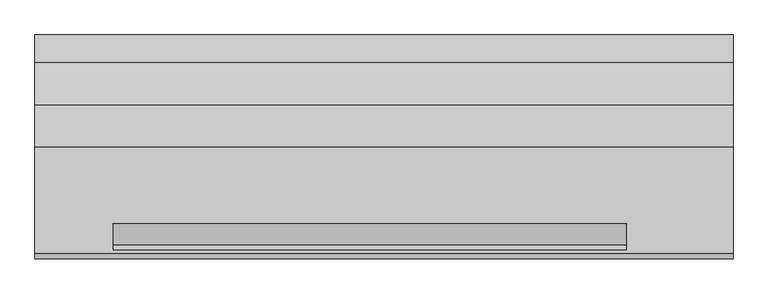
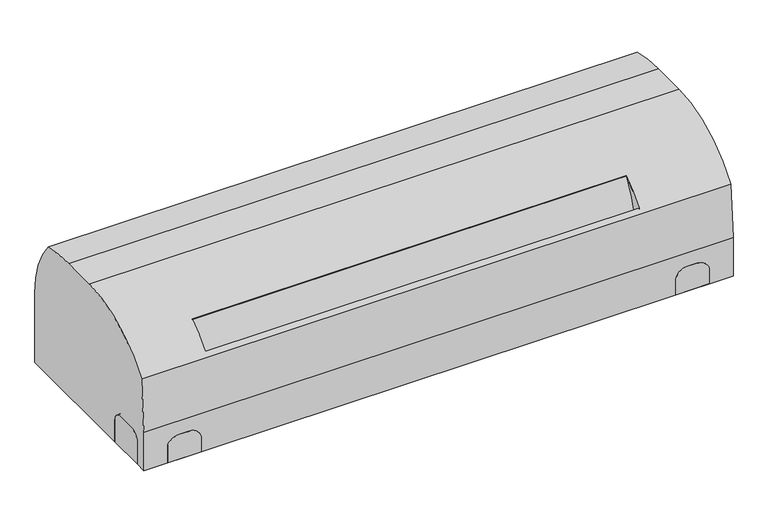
"""IFC4 building model written with IfcOpenShell, lengths in millimetres: proxy geometry, Fujitsu General_ASYG18LFCA : ASYG18LFCA."""

from ifc_helpers import new_model, si_unit, point, frame, frame_2d, origin, origin_with_axes, place, context, project, spatial, polyline, circle_curve, trimmed, segment, composite_curve, outline, extrude, source, transform, mapped, element, save
from ifc_brep_helpers import plane_surface, cylinder_surface, revolved_surface, advanced_brep


def mechanical_equipment_e18acb15(model_context):
    return source(origin(), model_context, "Body", "SolidModel", [
        extrude(outline(composite_curve([segment(trimmed(circle_curve(frame_2d((-125.0, 40.0)), 15.0), [point((-140.0, 40.0))], [point((-125.0, 55.0))], False, "CARTESIAN"), True, "CONTINUOUS"), segment(polyline([(-125.0, 55.0), (-90.0, 55.0)]), True, "CONTINUOUS"), segment(trimmed(circle_curve(frame_2d((-90.0, 40.0)), 15.0), [point((-90.0, 55.0))], [point((-75.0, 40.0))], False, "CARTESIAN"), True, "CONTINUOUS"), segment(polyline([(-75.0, 40.0), (-75.0, 0.0), (-140.0, 0.0), (-140.0, 40.0)]), True, "CONTINUOUS")], self_intersect=False)), frame((-499.0, 0.0, 0.0), z_axis=(1.0, 0.0, 0.0), x_axis=(0.0, 1.0, 0.0)), (0.0, 0.0, 1.0), 5.0),
        extrude(outline(composite_curve([segment(polyline([(25.292455, 401.7150075), (0.0, 401.7150075), (0.0, 459.0), (27.0761386, 459.0)]), True, "CONTINUOUS"), segment(trimmed(circle_curve(frame_2d((21.1163822, 436.6581618)), 23.1230714), [point((27.0761386, 459.0))], [point((44.2394536, 436.6581618))], False, "CARTESIAN"), True, "CONTINUOUS"), segment(polyline([(44.2394536, 436.6581618), (44.2394536, 420.6620061)]), True, "CONTINUOUS"), segment(trimmed(circle_curve(frame_2d((25.292455, 420.6620061)), 18.9469986), [point((44.2394536, 420.6620061))], [point((25.292455, 401.7150075))], False, "CARTESIAN"), True, "CONTINUOUS")], self_intersect=False)), frame((0.0, -160.0, 0.0), z_axis=(0.0, 1.0, 0.0), x_axis=(0.0, 0.0, 1.0)), (0.0, 0.0, 1.0), 5.0),
        extrude(outline(composite_curve([segment(trimmed(circle_curve(frame_2d((23.6913954, -422.2630656)), 20.5480581), [point((23.6913954, -401.7150075))], [point((44.2394536, -422.2630656))], False, "CARTESIAN"), True, "CONTINUOUS"), segment(polyline([(44.2394536, -422.2630656), (44.2394536, -439.4330896)]), True, "CONTINUOUS"), segment(trimmed(circle_curve(frame_2d((21.8598187, -439.4330896)), 22.3796348), [point((44.2394536, -439.4330896))], [point((32.721866, -459.0))], False, "CARTESIAN"), True, "CONTINUOUS"), segment(polyline([(32.721866, -459.0), (0.0, -459.0), (0.0, -401.7150075), (23.6913954, -401.7150075)]), True, "CONTINUOUS")], self_intersect=False)), frame((0.0, -160.0, 0.0), z_axis=(0.0, 1.0, 0.0), x_axis=(0.0, 0.0, 1.0)), (0.0, 0.0, 1.0), 5.0),
        extrude(outline(composite_curve([segment(trimmed(circle_curve(frame_2d((-125.0, 40.0)), 15.0), [point((-140.0, 40.0))], [point((-125.0, 55.0))], False, "CARTESIAN"), True, "CONTINUOUS"), segment(polyline([(-125.0, 55.0), (-90.0, 55.0)]), True, "CONTINUOUS"), segment(trimmed(circle_curve(frame_2d((-90.0, 40.0)), 15.0), [point((-90.0, 55.0))], [point((-75.0, 40.0))], False, "CARTESIAN"), True, "CONTINUOUS"), segment(polyline([(-75.0, 40.0), (-75.0, 0.0), (-140.0, 0.0), (-140.0, 40.0)]), True, "CONTINUOUS")], self_intersect=False)), frame((494.0, 0.0, 0.0), z_axis=(1.0, 0.0, 0.0), x_axis=(0.0, 1.0, 0.0)), (0.0, 0.0, 1.0), 5.0),
        extrude(outline(composite_curve([segment(trimmed(circle_curve(frame_2d((397.0, -104.0)), 40.0), [point((357.0, -104.0))], [point((437.0, -104.0))], False, "CARTESIAN"), True, "CONTINUOUS"), segment(trimmed(circle_curve(frame_2d((397.0, -104.0)), 40.0), [point((437.0, -104.0))], [point((357.0, -104.0))], False, "CARTESIAN"), True, "CONTINUOUS")], self_intersect=False)), origin_with_axes(), (0.0, 0.0, 1.0), 5.0),
        extrude(outline(composite_curve([segment(trimmed(circle_curve(frame_2d((-438.0, -104.0)), 40.0), [point((-478.0, -104.0))], [point((-398.0, -104.0))], False, "CARTESIAN"), True, "CONTINUOUS"), segment(trimmed(circle_curve(frame_2d((-438.0, -104.0)), 40.0), [point((-398.0, -104.0))], [point((-478.0, -104.0))], False, "CARTESIAN"), True, "CONTINUOUS")], self_intersect=False)), origin_with_axes(), (0.0, 0.0, 1.0), 5.0),
        advanced_brep(
        [(499.0, 160.0, 124.3043451), (499.0, 120.8530457, 230.5135888), (499.0, 60.1305829, 238.0), (499.0, 0.1305829, 238.0), (499.0, -152.9495868, 160.4508531), (499.0, -160.0, 69.1608386), (499.0, -160.0, 0.0), (499.0, -140.0, 0.0), (499.0, -140.0, 40.0), (499.0, -125.0, 55.0), (499.0, -90.0, 55.0), (499.0, -75.0, 40.0), (499.0, -75.0, 0.0), (499.0, 160.0, 0.0), (-499.0, 160.0, 124.3043451), (-499.0, 160.0, 0.0), (-499.0, -75.0, 0.0), (-499.0, -75.0, 40.0), (-499.0, -90.0, 55.0), (-499.0, -125.0, 55.0), (-499.0, -140.0, 40.0), (-499.0, -140.0, 0.0), (-499.0, -160.0, 0.0), (-499.0, -160.0, 69.1608386), (-499.0, -152.9495868, 160.4508531), (-499.0, 0.1305829, 238.0), (-499.0, 60.1305829, 238.0), (-499.0, 120.8530457, 230.5135888), (347.0, -110.0, 80.0), (-388.0, -110.0, 80.0), (-388.0, -147.6345685, 80.0), (347.0, -147.6345685, 80.0), (347.0, -110.0, 202.7953491), (-388.0, -110.0, 202.7953491), (-388.0, -147.6345685, 167.3569716), (347.0, -147.6345685, 167.3569716), (-478.0, -104.0, 10.0), (-398.0, -104.0, 10.0), (357.0, -104.0, 10.0), (437.0, -104.0, 10.0), (-398.0, -104.0, 0.0), (-478.0, -104.0, 0.0), (437.0, -104.0, 0.0), (357.0, -104.0, 0.0), (-494.0, -140.0, 0.0), (-494.0, -75.0, 0.0), (494.0, -75.0, 0.0), (494.0, -140.0, 0.0), (494.0, -75.0, 40.0), (494.0, -90.0, 55.0), (494.0, -125.0, 55.0), (494.0, -140.0, 40.0), (-494.0, -140.0, 40.0), (-494.0, -125.0, 55.0), (-494.0, -90.0, 55.0), (-494.0, -75.0, 40.0)],
        [
            (0, 1, circle_curve(frame((499.0, -3.651141, 124.3043451), z_axis=(1.0, 0.0, 0.0), x_axis=(0.0, 1.0, 0.0)), 163.651141)),
            (1, 2, circle_curve(frame((499.0, 60.1305829, -12.0038888), z_axis=(1.0, 0.0, 0.0), x_axis=(0.0, 1.0, 0.0)), 250.0038888)),
            (2, 3),
            (3, 4, circle_curve(frame((499.0, 0.1305829, 48.1371214), z_axis=(1.0, 0.0, 0.0), x_axis=(0.0, 1.0, 0.0)), 189.8628786)),
            (4, 5, circle_curve(frame((499.0, 434.5449449, 69.1608386), z_axis=(1.0, 0.0, 0.0), x_axis=(0.0, 1.0, 0.0)), 594.5449449)),
            (5, 6),
            (6, 7),
            (7, 8),
            (8, 9, circle_curve(frame((499.0, -125.0, 40.0), z_axis=(-1.0, 0.0, 0.0), x_axis=(0.0, 1.0, 0.0)), 15.0)),
            (9, 10),
            (10, 11, circle_curve(frame((499.0, -90.0, 40.0), z_axis=(-1.0, 0.0, 0.0), x_axis=(0.0, 1.0, 0.0)), 15.0)),
            (11, 12),
            (12, 13),
            (13, 0),
            (14, 15),
            (15, 16),
            (16, 17),
            (17, 18, circle_curve(frame((-499.0, -90.0, 40.0), z_axis=(1.0, 0.0, 0.0), x_axis=(0.0, 1.0, 0.0)), 15.0)),
            (18, 19),
            (19, 20, circle_curve(frame((-499.0, -125.0, 40.0), z_axis=(1.0, 0.0, 0.0), x_axis=(0.0, 1.0, 0.0)), 15.0)),
            (20, 21),
            (21, 22),
            (22, 23),
            (23, 24, circle_curve(frame((-499.0, 434.5449449, 69.1608386), z_axis=(-1.0, 0.0, 0.0), x_axis=(0.0, 1.0, 0.0)), 594.5449449)),
            (24, 25, circle_curve(frame((-499.0, 0.1305829, 48.1371214), z_axis=(-1.0, 0.0, 0.0), x_axis=(0.0, 1.0, 0.0)), 189.8628786)),
            (25, 26),
            (26, 27, circle_curve(frame((-499.0, 60.1305829, -12.0038888), z_axis=(-1.0, 0.0, 0.0), x_axis=(0.0, 1.0, 0.0)), 250.0038888)),
            (27, 14, circle_curve(frame((-499.0, -3.651141, 124.3043451), z_axis=(-1.0, 0.0, 0.0), x_axis=(0.0, 1.0, 0.0)), 163.651141)),
            (28, 29),
            (29, 30),
            (30, 31),
            (31, 28),
            (28, 32),
            (32, 33),
            (33, 29),
            (33, 34, circle_curve(frame((-388.0, 0.1305829, 48.1371214), z_axis=(1.0, 0.0, 0.0), x_axis=(0.0, 1.0, 0.0)), 189.8628786)),
            (34, 30),
            (34, 35),
            (35, 31),
            (35, 32, circle_curve(frame((347.0, 0.1305829, 48.1371214), z_axis=(-1.0, 0.0, 0.0), x_axis=(0.0, 1.0, 0.0)), 189.8628786)),
            (36, 37, circle_curve(frame((-438.0, -104.0, 10.0), z_axis=(0.0, 0.0, -1.0), x_axis=(1.0, 0.0, 0.0)), 40.0)),
            (37, 36, circle_curve(frame((-438.0, -104.0, 10.0), z_axis=(0.0, 0.0, -1.0), x_axis=(1.0, 0.0, 0.0)), 40.0)),
            (38, 39, circle_curve(frame((397.0, -104.0, 10.0), z_axis=(0.0, 0.0, -1.0), x_axis=(1.0, 0.0, 0.0)), 40.0)),
            (39, 38, circle_curve(frame((397.0, -104.0, 10.0), z_axis=(0.0, 0.0, -1.0), x_axis=(1.0, 0.0, 0.0)), 40.0)),
            (37, 40),
            (40, 41, circle_curve(frame((-438.0, -104.0, 0.0), z_axis=(0.0, 0.0, -1.0), x_axis=(1.0, 0.0, 0.0)), 40.0)),
            (41, 36),
            (41, 40, circle_curve(frame((-438.0, -104.0, 0.0), z_axis=(0.0, 0.0, -1.0), x_axis=(1.0, 0.0, 0.0)), 40.0)),
            (39, 42),
            (42, 43, circle_curve(frame((397.0, -104.0, 0.0), z_axis=(0.0, 0.0, -1.0), x_axis=(1.0, 0.0, 0.0)), 40.0)),
            (43, 38),
            (43, 42, circle_curve(frame((397.0, -104.0, 0.0), z_axis=(0.0, 0.0, -1.0), x_axis=(1.0, 0.0, 0.0)), 40.0)),
            (0, 14),
            (27, 1),
            (26, 2),
            (25, 3),
            (24, 4),
            (23, 5),
            (22, 6),
            (21, 44),
            (44, 45),
            (45, 16),
            (15, 13),
            (12, 46),
            (46, 47),
            (47, 7),
            (46, 48),
            (48, 49, circle_curve(frame((494.0, -90.0, 40.0), z_axis=(1.0, 0.0, 0.0), x_axis=(0.0, 1.0, 0.0)), 15.0)),
            (49, 50),
            (50, 51, circle_curve(frame((494.0, -125.0, 40.0), z_axis=(1.0, 0.0, 0.0), x_axis=(0.0, 1.0, 0.0)), 15.0)),
            (51, 47),
            (11, 48),
            (10, 49),
            (9, 50),
            (8, 51),
            (44, 52),
            (52, 53, circle_curve(frame((-494.0, -125.0, 40.0), z_axis=(-1.0, 0.0, 0.0), x_axis=(0.0, 1.0, 0.0)), 15.0)),
            (53, 54),
            (54, 55, circle_curve(frame((-494.0, -90.0, 40.0), z_axis=(-1.0, 0.0, 0.0), x_axis=(0.0, 1.0, 0.0)), 15.0)),
            (55, 45),
            (55, 17),
            (54, 18),
            (53, 19),
            (52, 20),
        ],
        [
            plane_surface(frame((499.0, 160.0, 124.3043451), z_axis=(1.0, 0.0, 0.0), x_axis=(0.0, 0.0, 1.0))),
            plane_surface(frame((-499.0, 160.0, 124.3043451), z_axis=(-1.0, 0.0, 0.0), x_axis=(0.0, 0.0, -1.0))),
            plane_surface(frame((-367.0, -110.0, 80.0), z_axis=(0.0, 0.0, 1.0), x_axis=(1.0, 0.0, 0.0))),
            plane_surface(frame((347.0, -110.0, 210.0), z_axis=(0.0, -1.0, 0.0), x_axis=(0.0, 0.0, -1.0))),
            plane_surface(frame((-388.0, -110.0, 210.0), z_axis=(1.0, 0.0, 0.0), x_axis=(0.0, 0.0, -1.0))),
            plane_surface(frame((-388.0, -147.6345685, 210.0), z_axis=(0.0, 1.0, 0.0), x_axis=(0.0, 0.0, -1.0))),
            plane_surface(frame((347.0, -147.6345685, 210.0), z_axis=(-1.0, 0.0, 0.0), x_axis=(0.0, 0.0, -1.0))),
            plane_surface(frame((-398.0, -104.0, 10.0), z_axis=(0.0, 0.0, -1.0), x_axis=(0.0, 1.0, 0.0))),
            revolved_surface(polyline([(-398.0, -104.0, 10.0), (-398.0, -104.0, 0.0)]), (-438.0, -104.0, 0.0), (0.0, 0.0, 1.0)),
            revolved_surface(polyline([(437.0, -104.0, 10.0), (437.0, -104.0, 0.0)]), (397.0, -104.0, 0.0), (0.0, 0.0, 1.0)),
            cylinder_surface(frame((-499.0, -3.651141, 124.3043451), z_axis=(1.0, 0.0, 0.0), x_axis=(0.0, 1.0, 0.0)), 163.651141),
            cylinder_surface(frame((-499.0, 60.1305829, -12.0038888), z_axis=(1.0, 0.0, 0.0), x_axis=(0.0, 1.0, 0.0)), 250.0038888),
            plane_surface(frame((499.0, 60.1305829, 238.0), z_axis=(0.0, 0.0, 1.0), x_axis=(-1.0, 0.0, 0.0))),
            cylinder_surface(frame((-499.0, 0.1305829, 48.1371214), z_axis=(1.0, 0.0, 0.0), x_axis=(0.0, 1.0, 0.0)), 189.8628786),
            cylinder_surface(frame((-499.0, 434.5449449, 69.1608386), z_axis=(1.0, 0.0, 0.0), x_axis=(0.0, 1.0, 0.0)), 594.5449449),
            plane_surface(frame((499.0, -160.0, 69.1608386), z_axis=(0.0, -1.0, 0.0), x_axis=(-1.0, 0.0, 0.0))),
            plane_surface(frame((499.0, -160.0, 0.0), z_axis=(0.0, 0.0, -1.0), x_axis=(-1.0, 0.0, 0.0))),
            plane_surface(frame((499.0, 160.0, 0.0), z_axis=(0.0, 1.0, 0.0), x_axis=(-1.0, 0.0, 0.0))),
            plane_surface(frame((494.0, 1219.2, 0.0), z_axis=(1.0, 0.0, 0.0), x_axis=(0.0, -1.0, 0.0))),
            plane_surface(frame((499.0, -75.0, 0.0), z_axis=(0.0, -1.0, 0.0), x_axis=(-1.0, 0.0, 0.0))),
            revolved_surface(polyline([(499.0, -75.0, 40.0), (494.0, -75.0, 40.0)]), (494.0, -90.0, 40.0), (1.0, 0.0, 0.0)),
            plane_surface(frame((499.0, -90.0, 55.0), z_axis=(0.0, 0.0, -1.0), x_axis=(-1.0, 0.0, 0.0))),
            revolved_surface(polyline([(499.0, -110.0, 40.0), (494.0, -110.0, 40.0)]), (494.0, -125.0, 40.0), (1.0, 0.0, 0.0)),
            plane_surface(frame((499.0, -140.0, 40.0), z_axis=(0.0, 1.0, 0.0), x_axis=(-1.0, 0.0, 0.0))),
            plane_surface(frame((-494.0, -140.0, 40.0), z_axis=(-1.0, 0.0, 0.0), x_axis=(0.0, 0.0, -1.0))),
            plane_surface(frame((-499.0, -75.0, 40.0), z_axis=(0.0, -1.0, 0.0), x_axis=(1.0, 0.0, 0.0))),
            revolved_surface(polyline([(-499.0, -75.0, 40.0), (-494.0, -75.0, 40.0)]), (-494.0, -90.0, 40.0), (-1.0, 0.0, 0.0)),
            plane_surface(frame((-499.0, -125.0, 55.0), z_axis=(0.0, 0.0, -1.0), x_axis=(1.0, 0.0, 0.0))),
            revolved_surface(polyline([(-499.0, -110.0, 40.0), (-494.0, -110.0, 40.0)]), (-494.0, -125.0, 40.0), (-1.0, 0.0, 0.0)),
            plane_surface(frame((-499.0, -140.0, 0.0), z_axis=(0.0, 1.0, 0.0), x_axis=(1.0, 0.0, 0.0))),
        ],
        [
            (0, [[1, 2, 3, 4, 5, 6, 7, 8, 9, 10, 11, 12, 13, 14]]),
            (1, [[15, 16, 17, 18, 19, 20, 21, 22, 23, 24, 25, 26, 27, 28]]),
            (2, [[29, 30, 31, 32]]),
            (3, [[-29, 33, 34, 35]]),
            (4, [[-30, -35, 36, 37]]),
            (5, [[-31, -37, 38, 39]]),
            (6, [[-32, -39, 40, -33]]),
            (7, [[41, 42]]),
            (7, [[43, 44]]),
            (8, [[-42, 45, 46, 47]]),
            (8, [[-41, -47, 48, -45]]),
            (9, [[-44, 49, 50, 51]]),
            (9, [[-43, -51, 52, -49]]),
            (10, [[-1, 53, -28, 54]]),
            (11, [[-2, -54, -27, 55]]),
            (12, [[-3, -55, -26, 56]]),
            (13, [[-4, -56, -25, 57], [-34, -40, -38, -36]]),
            (14, [[-5, -57, -24, 58]]),
            (15, [[-6, -58, -23, 59]]),
            (16, [[-59, -22, 60, 61, 62, -16, 63, -13, 64, 65, 66, -7], [-46, -48], [-50, -52]]),
            (17, [[-14, -63, -15, -53]]),
            (18, [[67, 68, 69, 70, 71, -65]]),
            (19, [[-67, -64, -12, 72]]),
            (20, [[-68, -72, -11, 73]]),
            (21, [[-69, -73, -10, 74]]),
            (22, [[-70, -74, -9, 75]]),
            (23, [[-71, -75, -8, -66]]),
            (24, [[76, 77, 78, 79, 80, -61]]),
            (25, [[-80, 81, -17, -62]]),
            (26, [[-79, 82, -18, -81]]),
            (27, [[-78, 83, -19, -82]]),
            (28, [[-77, 84, -20, -83]]),
            (29, [[-76, -60, -21, -84]]),
        ],
    ),
        extrude(outline(composite_curve([segment(polyline([(-110.0, 202.7953491), (-110.0, 80.0), (-140.0, 80.0)]), True, "CONTINUOUS"), segment(trimmed(circle_curve(frame_2d((59.3293952, 96.3643577)), 200.0), [point((-140.0, 80.0))], [point((-110.0, 202.7953491))], False, "CARTESIAN"), True, "CONTINUOUS")], self_intersect=False)), frame((-388.0, 0.0, 0.0), z_axis=(1.0, 0.0, 0.0), x_axis=(0.0, 1.0, 0.0)), (0.0, 0.0, 1.0), 735.0),
        extrude(outline(composite_curve([segment(trimmed(circle_curve(frame_2d((20.4892377, 431.6751779)), 4.76), [point((25.2492377, 431.6751779))], [point((15.7292377, 431.6751779))], False, "CARTESIAN"), True, "CONTINUOUS"), segment(trimmed(circle_curve(frame_2d((20.4892377, 431.6751779)), 4.76), [point((15.7292377, 431.6751779))], [point((25.2492377, 431.6751779))], False, "CARTESIAN"), True, "CONTINUOUS")], self_intersect=False)), frame((0.0, -10.0, 0.0), z_axis=(0.0, 1.0, 0.0), x_axis=(0.0, 0.0, 1.0)), (0.0, 0.0, 1.0), 10.0),
        extrude(outline(composite_curve([segment(trimmed(circle_curve(frame_2d((37.2597876, 431.6751779)), 3.175), [point((40.4347876, 431.6751779))], [point((34.0847876, 431.6751779))], False, "CARTESIAN"), True, "CONTINUOUS"), segment(trimmed(circle_curve(frame_2d((37.2597876, 431.6751779)), 3.175), [point((34.0847876, 431.6751779))], [point((40.4347876, 431.6751779))], False, "CARTESIAN"), True, "CONTINUOUS")], self_intersect=False)), frame((0.0, -10.0, 0.0), z_axis=(0.0, 1.0, 0.0), x_axis=(0.0, 0.0, 1.0)), (0.0, 0.0, 1.0), 10.0),
        extrude(outline(composite_curve([segment(trimmed(circle_curve(frame_2d((397.0, -104.0)), 6.9), [point((403.9, -104.0))], [point((390.1, -104.0))], False, "CARTESIAN"), True, "CONTINUOUS"), segment(trimmed(circle_curve(frame_2d((397.0, -104.0)), 6.9), [point((390.1, -104.0))], [point((403.9, -104.0))], False, "CARTESIAN"), True, "CONTINUOUS")], self_intersect=False)), frame((0.0, 0.0, 70.0), z_axis=(0.0, 0.0, 1.0), x_axis=(1.0, 0.0, 0.0)), (0.0, 0.0, 1.0), 10.0),
        extrude(outline(composite_curve([segment(trimmed(circle_curve(frame_2d((-438.0, -104.0)), 6.9), [point((-431.1, -104.0))], [point((-444.9, -104.0))], False, "CARTESIAN"), True, "CONTINUOUS"), segment(trimmed(circle_curve(frame_2d((-438.0, -104.0)), 6.9), [point((-444.9, -104.0))], [point((-431.1, -104.0))], False, "CARTESIAN"), True, "CONTINUOUS")], self_intersect=False)), frame((0.0, 0.0, 70.0), z_axis=(0.0, 0.0, 1.0), x_axis=(1.0, 0.0, 0.0)), (0.0, 0.0, 1.0), 10.0),
    ])


if __name__ == "__main__":
    model = new_model("IFC4")
    model_context = context("Model", 3, world=origin())
    ifc_project = project(units=[si_unit("LENGTHUNIT", "METRE", prefix="MILLI")], contexts=[model_context])
    site = spatial("IfcSite", under=ifc_project)
    building = spatial("IfcBuilding", under=site)
    placement = place(None, origin())
    mechanical_equipment_shape = mechanical_equipment_e18acb15(model_context)
    element("IfcBuildingElementProxy", 1, Name="Fujitsu General_ASYG18LFCA : ASYG18LFCA", ObjectType="Fujitsu General_ASYG18LFCA : ASYG18LFCA", at=placement, inside=building, context=model_context, shape_type="MappedRepresentation", body=[
        mapped(mechanical_equipment_shape, transform((0.0, 0.0, 0.0), x_axis=(1.0, 0.0, 0.0), y_axis=(0.0, 1.0, 0.0), z_axis=(0.0, 0.0, 1.0))),
    ])
    save(model, "model.ifc")
